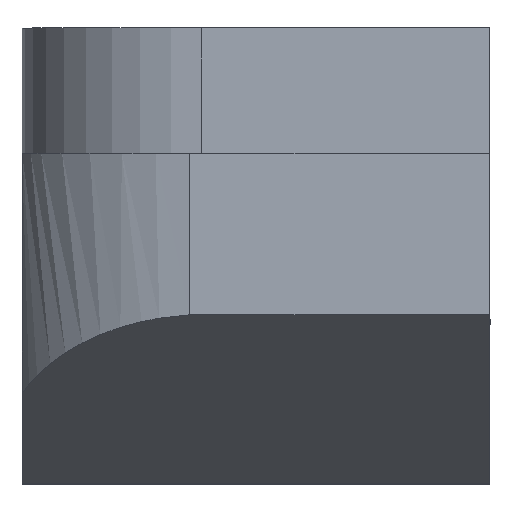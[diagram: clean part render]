
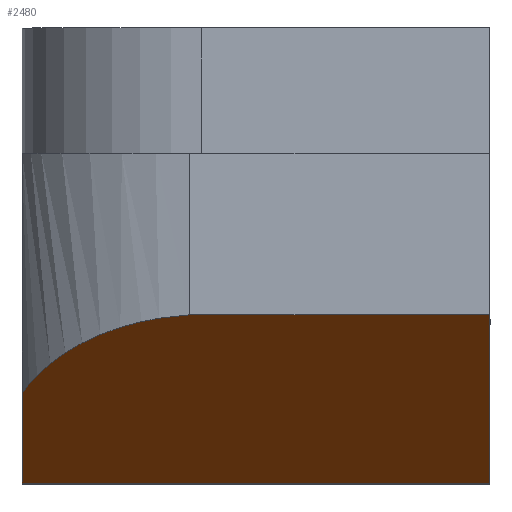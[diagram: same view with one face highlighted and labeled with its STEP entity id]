
A CAD part, top view. The second image highlights one B-rep face of the part: STEP entity #2480.
In plain terms, the highlighted planar face has unit normal (0, -0.793, 0.609).
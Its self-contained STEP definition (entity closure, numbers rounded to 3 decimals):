
#76 = ORIENTED_EDGE ( 'NONE', *, *, #5004, .F. ) ;
#109 = EDGE_CURVE ( 'NONE', #1298, #6332, #2217, .T. ) ;
#175 = CARTESIAN_POINT ( 'NONE',  ( 3.9, -3.85, 5.75 ) ) ;
#264 = CARTESIAN_POINT ( 'NONE',  ( -3.779, -2.18, 7.926 ) ) ;
#615 = ORIENTED_EDGE ( 'NONE', *, *, #5415, .T. ) ;
#798 = CARTESIAN_POINT ( 'NONE',  ( -3.034, -1.581, 8.707 ) ) ;
#920 = DIRECTION ( 'NONE',  ( 0., -0.609, -0.793 ) ) ;
#1137 = CARTESIAN_POINT ( 'NONE',  ( 3.9, -3.85, 5.75 ) ) ;
#1298 = VERTEX_POINT ( 'NONE', #3594 ) ;
#1328 = CARTESIAN_POINT ( 'NONE',  ( -2.28, -1.263, 9.123 ) ) ;
#1376 = VERTEX_POINT ( 'NONE', #3127 ) ;
#1608 = DIRECTION ( 'NONE',  ( 0., -0.609, -0.793 ) ) ;
#1876 = CARTESIAN_POINT ( 'NONE',  ( -1.409, -1.068, 9.377 ) ) ;
#2217 = LINE ( 'NONE', #4384, #3927 ) ;
#2367 = DIRECTION ( 'NONE',  ( 0., 0.793, -0.609 ) ) ;
#2461 = CARTESIAN_POINT ( 'NONE',  ( -3.9, -2.354, 7.7 ) ) ;
#2480 = ADVANCED_FACE ( 'NONE', ( #2902 ), #5088, .F. ) ;
#2573 = CARTESIAN_POINT ( 'NONE',  ( -1.1, -1.05, 9.4 ) ) ;
#2700 = VECTOR ( 'NONE', #920, 1000. ) ;
#2741 = ORIENTED_EDGE ( 'NONE', *, *, #6919, .F. ) ;
#2902 = FACE_OUTER_BOUND ( 'NONE', #4265, .T. ) ;
#2989 = CARTESIAN_POINT ( 'NONE',  ( -3.252, -1.717, 8.53 ) ) ;
#3058 = EDGE_CURVE ( 'NONE', #1376, #6407, #4326, .T. ) ;
#3085 = AXIS2_PLACEMENT_3D ( 'NONE', #175, #2367, #4534 ) ;
#3127 = CARTESIAN_POINT ( 'NONE',  ( -3.9, -2.354, 7.7 ) ) ;
#3168 = CARTESIAN_POINT ( 'NONE',  ( -3.9, -3.85, 5.75 ) ) ;
#3169 = ORIENTED_EDGE ( 'NONE', *, *, #109, .T. ) ;
#3314 = VERTEX_POINT ( 'NONE', #4113 ) ;
#3336 = DIRECTION ( 'NONE',  ( -1., 0., 0. ) ) ;
#3524 = CARTESIAN_POINT ( 'NONE',  ( -2.545, -1.357, 9. ) ) ;
#3594 = CARTESIAN_POINT ( 'NONE',  ( 3.9, -1.05, 9.4 ) ) ;
#3642 = LINE ( 'NONE', #5822, #2700 ) ;
#3927 = VECTOR ( 'NONE', #6558, 1000. ) ;
#4048 = CARTESIAN_POINT ( 'NONE',  ( -1.711, -1.114, 9.316 ) ) ;
#4113 = CARTESIAN_POINT ( 'NONE',  ( 3.9, -3.85, 5.75 ) ) ;
#4265 = EDGE_LOOP ( 'NONE', ( #3169, #615, #5538, #2741, #76 ) ) ;
#4326 = LINE ( 'NONE', #6503, #6947 ) ;
#4384 = CARTESIAN_POINT ( 'NONE',  ( 3.9, -1.05, 9.4 ) ) ;
#4534 = DIRECTION ( 'NONE',  ( 0., 0.609, 0.793 ) ) ;
#5004 = EDGE_CURVE ( 'NONE', #1298, #3314, #3642, .T. ) ;
#5088 = PLANE ( 'NONE',  #3085 ) ;
#5181 = CARTESIAN_POINT ( 'NONE',  ( -3.626, -2.018, 8.138 ) ) ;
#5264 = VECTOR ( 'NONE', #3336, 1000. ) ;
#5415 = EDGE_CURVE ( 'NONE', #6332, #1376, #6299, .T. ) ;
#5538 = ORIENTED_EDGE ( 'NONE', *, *, #3058, .T. ) ;
#5699 = CARTESIAN_POINT ( 'NONE',  ( -2.672, -1.409, 8.932 ) ) ;
#5822 = CARTESIAN_POINT ( 'NONE',  ( 3.9, -3.85, 5.75 ) ) ;
#6029 = LINE ( 'NONE', #1137, #5264 ) ;
#6222 = CARTESIAN_POINT ( 'NONE',  ( -2.14, -1.221, 9.177 ) ) ;
#6299 = B_SPLINE_CURVE_WITH_KNOTS ( 'NONE', 3,
 ( #6753, #1876, #4048, #6222, #1328, #3524, #5699, #798, #2989, #5181, #264, #2461 ),
 .UNSPECIFIED., .F., .F.,
 ( 4, 2, 2, 2, 2, 4 ),
 ( 0., 0.001, 0.001, 0.002, 0.003, 0.004 ),
 .UNSPECIFIED. ) ;
#6332 = VERTEX_POINT ( 'NONE', #2573 ) ;
#6407 = VERTEX_POINT ( 'NONE', #3168 ) ;
#6503 = CARTESIAN_POINT ( 'NONE',  ( -3.9, -3.85, 5.75 ) ) ;
#6558 = DIRECTION ( 'NONE',  ( -1., 0., 0. ) ) ;
#6753 = CARTESIAN_POINT ( 'NONE',  ( -1.1, -1.05, 9.4 ) ) ;
#6919 = EDGE_CURVE ( 'NONE', #3314, #6407, #6029, .T. ) ;
#6947 = VECTOR ( 'NONE', #1608, 1000. ) ;
